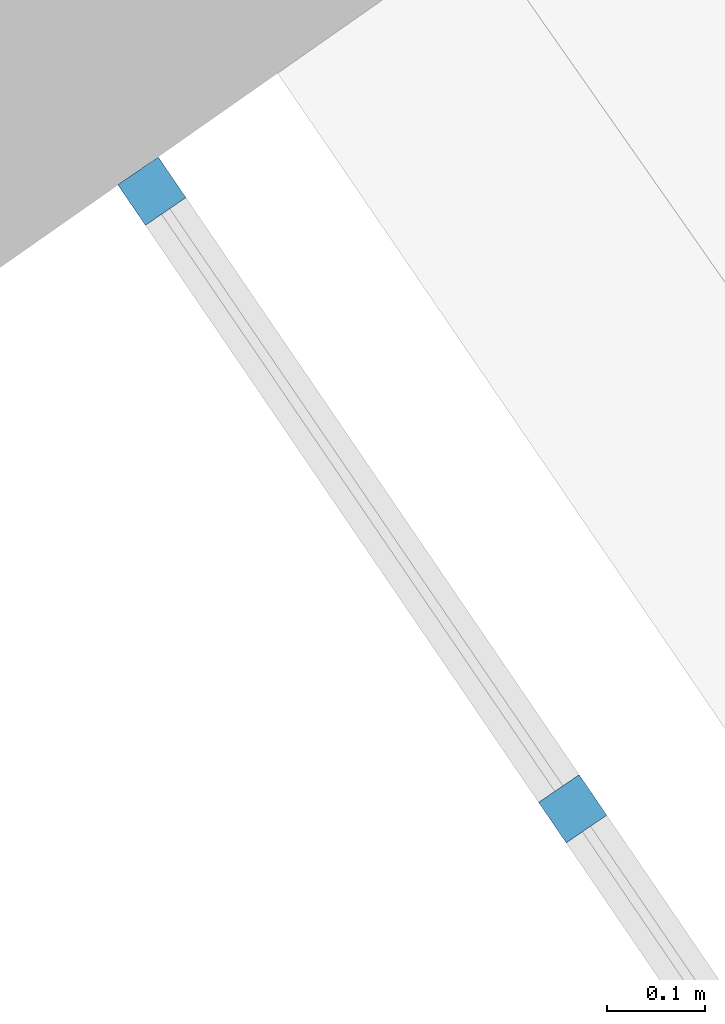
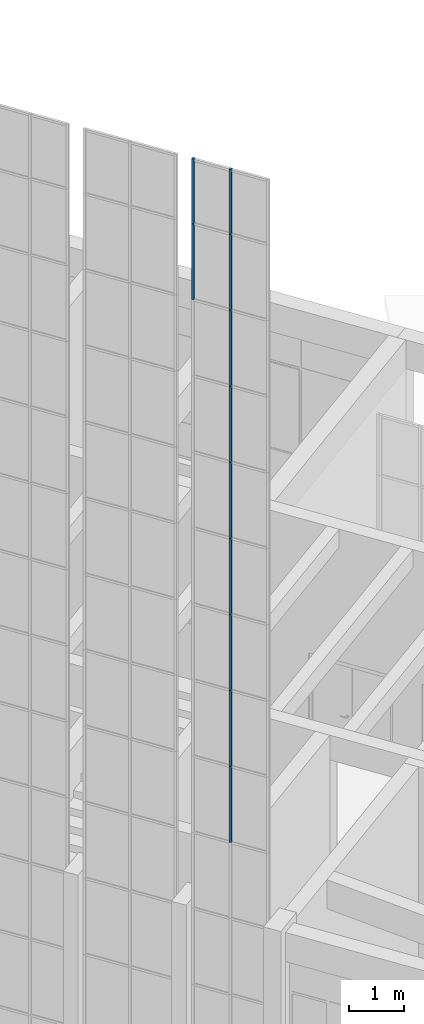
# One storey, part 8 of 157: 11 members, 1 element without a shape of its own.
"""IFC2X3 building model written with IfcOpenShell, lengths in millimetres."""

from ifc_helpers import new_model, entity, si_unit, converted_unit, derived_unit, direction, frame, origin, origin_2d_with_axis, place, context, subcontext, project, spatial, rectangle, extrude, source, transform, mapped, material, type_object, type_shapes, element, aggregate, save


model = new_model("IFC2X3")

# Units and contexts
model_context = context("Model", 3, precision=0.01, world=origin(), true_north=direction((6.123031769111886e-17, 1.0)))
body_context = subcontext(model_context, "Body", "Model", "MODEL_VIEW")
ifc_project = project(units=[si_unit("LENGTHUNIT", "METRE", prefix="MILLI"), si_unit("AREAUNIT", "SQUARE_METRE"), si_unit("VOLUMEUNIT", "CUBIC_METRE"), converted_unit("PLANEANGLEUNIT", "DEGREE", entity("IfcRatioMeasure", 0.017453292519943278), si_unit("PLANEANGLEUNIT", "RADIAN"), dimensions=[0, 0, 0, 0, 0, 0, 0]), si_unit("MASSUNIT", "GRAM", prefix="KILO"), derived_unit("MASSDENSITYUNIT", [(si_unit("MASSUNIT", "GRAM", prefix="KILO"), 1), (si_unit("LENGTHUNIT", "METRE"), -3)]), derived_unit("MOMENTOFINERTIAUNIT", [(si_unit("LENGTHUNIT", "METRE"), 4)]), si_unit("TIMEUNIT", "SECOND"), si_unit("FREQUENCYUNIT", "HERTZ"), si_unit("THERMODYNAMICTEMPERATUREUNIT", "DEGREE_CELSIUS"), derived_unit("THERMALTRANSMITTANCEUNIT", [(si_unit("MASSUNIT", "GRAM", prefix="KILO"), 1), (si_unit("THERMODYNAMICTEMPERATUREUNIT", "KELVIN"), -1), (si_unit("TIMEUNIT", "SECOND"), -3)]), derived_unit("THERMALCONDUCTANCEUNIT", [(si_unit("MASSUNIT", "GRAM", prefix="KILO"), 1), (si_unit("LENGTHUNIT", "METRE"), 1), (si_unit("THERMODYNAMICTEMPERATUREUNIT", "KELVIN"), -1), (si_unit("TIMEUNIT", "SECOND"), -3)]), derived_unit("VOLUMETRICFLOWRATEUNIT", [(si_unit("LENGTHUNIT", "METRE"), 3), (si_unit("TIMEUNIT", "SECOND"), -1)]), derived_unit("MASSFLOWRATEUNIT", [(si_unit("MASSUNIT", "GRAM", prefix="KILO"), 1), (si_unit("TIMEUNIT", "SECOND"), -1)]), derived_unit("ROTATIONALFREQUENCYUNIT", [(si_unit("TIMEUNIT", "SECOND"), -1)]), si_unit("ELECTRICCURRENTUNIT", "AMPERE"), si_unit("ELECTRICVOLTAGEUNIT", "VOLT"), si_unit("POWERUNIT", "WATT"), converted_unit("FORCEUNIT", "KIP", entity("IfcRatioMeasure", 2.088543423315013e-05), si_unit("FORCEUNIT", "NEWTON"), dimensions=[1, 1, -2, 0, 0, 0, 0]), si_unit("ILLUMINANCEUNIT", "LUX"), si_unit("LUMINOUSFLUXUNIT", "LUMEN"), si_unit("LUMINOUSINTENSITYUNIT", "CANDELA"), derived_unit("USERDEFINED", [(si_unit("MASSUNIT", "GRAM", prefix="KILO"), -1), (si_unit("LENGTHUNIT", "METRE"), -2), (si_unit("TIMEUNIT", "SECOND"), 3), (si_unit("LUMINOUSFLUXUNIT", "LUMEN"), 1)]), derived_unit("USERDEFINED", [(si_unit("MASSUNIT", "GRAM", prefix="KILO"), 1), (si_unit("LENGTHUNIT", "METRE"), 3), (si_unit("TIMEUNIT", "SECOND"), -3), (si_unit("ELECTRICCURRENTUNIT", "AMPERE"), -2)]), derived_unit("USERDEFINED", [(si_unit("LENGTHUNIT", "METRE"), 2), (si_unit("TIMEUNIT", "SECOND"), -2)]), derived_unit("SOUNDPOWERUNIT", [(si_unit("MASSUNIT", "GRAM", prefix="KILO"), 1), (si_unit("LENGTHUNIT", "METRE"), 2), (si_unit("TIMEUNIT", "SECOND"), -3)]), derived_unit("SOUNDPRESSUREUNIT", [(si_unit("MASSUNIT", "GRAM", prefix="KILO"), 1), (si_unit("LENGTHUNIT", "METRE"), -1), (si_unit("TIMEUNIT", "SECOND"), -2)]), derived_unit("LINEARVELOCITYUNIT", [(si_unit("LENGTHUNIT", "METRE"), 1), (si_unit("TIMEUNIT", "SECOND"), -1)]), si_unit("PRESSUREUNIT", "PASCAL"), derived_unit("USERDEFINED", [(si_unit("LENGTHUNIT", "METRE"), -2), (si_unit("MASSUNIT", "GRAM", prefix="KILO"), 1), (si_unit("TIMEUNIT", "SECOND"), -2)]), derived_unit("LINEARFORCEUNIT", [(si_unit("MASSUNIT", "GRAM", prefix="KILO"), 1), (si_unit("LENGTHUNIT", "METRE"), 1), (si_unit("TIMEUNIT", "SECOND"), -2), (si_unit("LENGTHUNIT", "METRE"), -1)]), derived_unit("PLANARFORCEUNIT", [(si_unit("MASSUNIT", "GRAM", prefix="KILO"), 1), (si_unit("LENGTHUNIT", "METRE"), 1), (si_unit("TIMEUNIT", "SECOND"), -2), (si_unit("LENGTHUNIT", "METRE"), -2)]), derived_unit("SPECIFICHEATCAPACITYUNIT", [(si_unit("LENGTHUNIT", "METRE"), 2), (si_unit("TIMEUNIT", "SECOND"), -2), (si_unit("THERMODYNAMICTEMPERATUREUNIT", "KELVIN"), -1)]), derived_unit("VAPORPERMEABILITYUNIT", [(si_unit("TIMEUNIT", "SECOND"), 1), (si_unit("LENGTHUNIT", "METRE"), -1)]), derived_unit("DYNAMICVISCOSITYUNIT", [(si_unit("MASSUNIT", "GRAM", prefix="KILO"), 1), (si_unit("LENGTHUNIT", "METRE"), -1), (si_unit("TIMEUNIT", "SECOND"), -1)]), derived_unit("THERMALEXPANSIONCOEFFICIENTUNIT", [(si_unit("THERMODYNAMICTEMPERATUREUNIT", "KELVIN"), -1)])], contexts=[model_context])

# Site, building, storey
site_placement = place(None, frame((0.0, 0.0, 0.0), z_axis=(0.0, 0.0, 1.0), x_axis=(0.8191520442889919, 0.5735764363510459, 0.0)))
site = spatial("IfcSite", under=ifc_project, at=site_placement, Name="Default", CompositionType="ELEMENT")
building_placement = place(site_placement, origin())
building = spatial("IfcBuilding", under=site, at=building_placement, CompositionType="ELEMENT")
storey_placement = place(building_placement, origin())
storey = spatial("IfcBuildingStorey", under=building, at=storey_placement, Name="1.EG +0.00", CompositionType="ELEMENT", Elevation=-4.331468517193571e-12)

# Curtain wall, members
curtain_wall_type = type_object("IfcCurtainWallType", Name="Curtain Wall:Curtain_Wall_CJC", PredefinedType="NOTDEFINED")
curtain_wall_placement = place(storey_placement, origin())
curtain_wall = element("IfcCurtainWall", 1, at=curtain_wall_placement, inside=storey, type_object=curtain_wall_type, Name="Curtain Wall:Curtain_Wall_CJC", ObjectType="Curtain Wall:Curtain_Wall_CJC")
ifc_material = material(Name="Aluminium")
member_type_1 = type_object("IfcMemberType", Name="Rectangular Mullion:5x5", PredefinedType="MULLION", material=ifc_material)
shared_shape_1 = source(origin(), body_context, "Body", "SweptSolid", [
    extrude(rectangle(XDim=50.0, YDim=50.0, at=origin_2d_with_axis()), frame((-25.0, 0.0, -1700.0), z_axis=(0.0, 0.0, 1.0), x_axis=(0.0, -1.0, 0.0)), (0.0, 0.0, 1.0), 1700.0),
])
type_shapes(member_type_1, [shared_shape_1])
member_1_placement = place(curtain_wall_placement, frame((-223102.4117022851, 111445.23194626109, 18700.0), z_axis=(0.0, 0.0, -1.0), x_axis=(0.01272958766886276, 0.999918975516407, 0.0)))
member_1 = element("IfcMember", 2, at=member_1_placement, type_object=member_type_1, material=ifc_material, Name="Rectangular Mullion:5x5", ObjectType="Rectangular Mullion:5x5", context=body_context, shape_type="MappedRepresentation", body=[
    mapped(shared_shape_1, transform((0.0, 0.0, 0.0), scale=1.0)),
])
member_type_2 = type_object("IfcMemberType", Name="Rectangular Mullion:5x5", PredefinedType="MULLION", material=ifc_material)
shared_shape_2 = source(origin(), body_context, "Body", "SweptSolid", [
    extrude(rectangle(XDim=50.0, YDim=50.0, at=origin_2d_with_axis()), frame((0.0, 0.0, -1700.0), z_axis=(0.0, 0.0, 1.0), x_axis=(0.0, -1.0, 0.0)), (0.0, 0.0, 1.0), 1700.0),
])
type_shapes(member_type_2, [shared_shape_2])
member_2_placement = place(curtain_wall_placement, frame((-223112.42989137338, 110658.29543030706, 6800.0), z_axis=(0.0, 0.0, -1.0), x_axis=(0.01272958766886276, 0.999918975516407, 0.0)))
member_2 = element("IfcMember", 3, at=member_2_placement, type_object=member_type_2, material=ifc_material, Name="Rectangular Mullion:5x5", ObjectType="Rectangular Mullion:5x5", context=body_context, shape_type="MappedRepresentation", body=[
    mapped(shared_shape_2, transform((0.0, 0.0, 0.0), scale=1.0)),
])
member_3_placement = place(curtain_wall_placement, frame((-223112.42989137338, 110658.29543030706, 8500.0), z_axis=(0.0, 0.0, -1.0), x_axis=(0.01272958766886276, 0.999918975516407, 0.0)))
member_3 = element("IfcMember", 4, at=member_3_placement, type_object=member_type_2, material=ifc_material, Name="Rectangular Mullion:5x5", ObjectType="Rectangular Mullion:5x5", context=body_context, shape_type="MappedRepresentation", body=[
    mapped(shared_shape_2, transform((0.0, 0.0, 0.0), scale=1.0)),
])
member_4_placement = place(curtain_wall_placement, frame((-223112.42989137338, 110658.29543030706, 10200.0), z_axis=(0.0, 0.0, -1.0), x_axis=(0.01272958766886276, 0.999918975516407, 0.0)))
member_4 = element("IfcMember", 5, at=member_4_placement, type_object=member_type_2, material=ifc_material, Name="Rectangular Mullion:5x5", ObjectType="Rectangular Mullion:5x5", context=body_context, shape_type="MappedRepresentation", body=[
    mapped(shared_shape_2, transform((0.0, 0.0, 0.0), scale=1.0)),
])
member_5_placement = place(curtain_wall_placement, frame((-223112.42989137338, 110658.29543030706, 11900.0), z_axis=(0.0, 0.0, -1.0), x_axis=(0.01272958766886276, 0.999918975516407, 0.0)))
member_5 = element("IfcMember", 6, at=member_5_placement, type_object=member_type_2, material=ifc_material, Name="Rectangular Mullion:5x5", ObjectType="Rectangular Mullion:5x5", context=body_context, shape_type="MappedRepresentation", body=[
    mapped(shared_shape_2, transform((0.0, 0.0, 0.0), scale=1.0)),
])
member_6_placement = place(curtain_wall_placement, frame((-223112.42989137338, 110658.29543030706, 13600.0), z_axis=(0.0, 0.0, -1.0), x_axis=(0.01272958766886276, 0.999918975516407, 0.0)))
member_6 = element("IfcMember", 7, at=member_6_placement, type_object=member_type_2, material=ifc_material, Name="Rectangular Mullion:5x5", ObjectType="Rectangular Mullion:5x5", context=body_context, shape_type="MappedRepresentation", body=[
    mapped(shared_shape_2, transform((0.0, 0.0, 0.0), scale=1.0)),
])
member_7_placement = place(curtain_wall_placement, frame((-223112.42989137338, 110658.29543030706, 15300.0), z_axis=(0.0, 0.0, -1.0), x_axis=(0.01272958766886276, 0.999918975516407, 0.0)))
member_7 = element("IfcMember", 8, at=member_7_placement, type_object=member_type_2, material=ifc_material, Name="Rectangular Mullion:5x5", ObjectType="Rectangular Mullion:5x5", context=body_context, shape_type="MappedRepresentation", body=[
    mapped(shared_shape_2, transform((0.0, 0.0, 0.0), scale=1.0)),
])
member_8_placement = place(curtain_wall_placement, frame((-223112.42989137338, 110658.29543030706, 17000.0), z_axis=(0.0, 0.0, -1.0), x_axis=(0.01272958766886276, 0.999918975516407, 0.0)))
member_8 = element("IfcMember", 9, at=member_8_placement, type_object=member_type_2, material=ifc_material, Name="Rectangular Mullion:5x5", ObjectType="Rectangular Mullion:5x5", context=body_context, shape_type="MappedRepresentation", body=[
    mapped(shared_shape_2, transform((0.0, 0.0, 0.0), scale=1.0)),
])
member_9_placement = place(curtain_wall_placement, frame((-223112.42989137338, 110658.29543030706, 18700.0), z_axis=(0.0, 0.0, -1.0), x_axis=(0.01272958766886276, 0.999918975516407, 0.0)))
member_9 = element("IfcMember", 10, at=member_9_placement, type_object=member_type_2, material=ifc_material, Name="Rectangular Mullion:5x5", ObjectType="Rectangular Mullion:5x5", context=body_context, shape_type="MappedRepresentation", body=[
    mapped(shared_shape_2, transform((0.0, 0.0, 0.0), scale=1.0)),
])
member_type_3 = type_object("IfcMemberType", Name="Rectangular Mullion:5x5", PredefinedType="MULLION", material=ifc_material)
shared_shape_3 = source(origin(), body_context, "Body", "SweptSolid", [
    extrude(rectangle(XDim=50.0, YDim=50.0, at=origin_2d_with_axis()), frame((-25.0, 0.0, -1450.0), z_axis=(0.0, 0.0, 1.0), x_axis=(0.0, -1.0, 0.0)), (0.0, 0.0, 1.0), 1450.0000000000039),
])
type_shapes(member_type_3, [shared_shape_3])
member_10_placement = place(curtain_wall_placement, frame((-223102.4117022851, 111445.23194626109, 20400.0), z_axis=(0.0, 0.0, -1.0), x_axis=(0.01272958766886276, 0.999918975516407, 0.0)))
member_10 = element("IfcMember", 11, at=member_10_placement, type_object=member_type_3, material=ifc_material, Name="Rectangular Mullion:5x5", ObjectType="Rectangular Mullion:5x5", context=body_context, shape_type="MappedRepresentation", body=[
    mapped(shared_shape_3, transform((0.0, 0.0, 0.0), scale=1.0)),
])
member_type_4 = type_object("IfcMemberType", Name="Rectangular Mullion:5x5", PredefinedType="MULLION", material=ifc_material)
shared_shape_4 = source(origin(), body_context, "Body", "SweptSolid", [
    extrude(rectangle(XDim=50.0, YDim=50.0, at=origin_2d_with_axis()), frame((0.0, 0.0, -1450.0), z_axis=(0.0, 0.0, 1.0), x_axis=(0.0, -1.0, 0.0)), (0.0, 0.0, 1.0), 1450.0000000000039),
])
type_shapes(member_type_4, [shared_shape_4])
member_11_placement = place(curtain_wall_placement, frame((-223112.42989137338, 110658.29543030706, 20400.0), z_axis=(0.0, 0.0, -1.0), x_axis=(0.01272958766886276, 0.999918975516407, 0.0)))
member_11 = element("IfcMember", 12, at=member_11_placement, type_object=member_type_4, material=ifc_material, Name="Rectangular Mullion:5x5", ObjectType="Rectangular Mullion:5x5", context=body_context, shape_type="MappedRepresentation", body=[
    mapped(shared_shape_4, transform((0.0, 0.0, 0.0), scale=1.0)),
])
aggregate(curtain_wall, [member_1, member_10, member_2, member_3, member_4, member_5, member_6, member_7, member_8, member_9, member_11])

save(model, "model.ifc")
